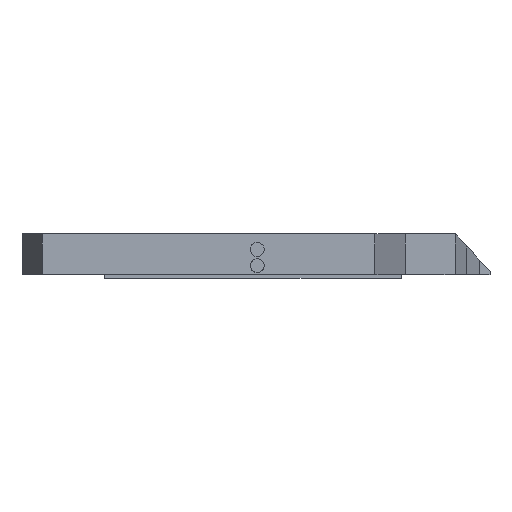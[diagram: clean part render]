
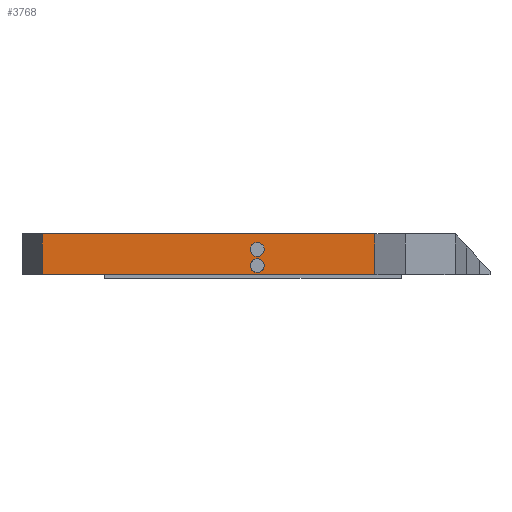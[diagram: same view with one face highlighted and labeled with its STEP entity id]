
A CAD part, left-side view. The second image highlights one B-rep face of the part: STEP entity #3768.
In plain terms, the highlighted planar face has unit normal (-1, 0, 0).
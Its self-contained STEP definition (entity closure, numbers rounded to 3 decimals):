
#683 = PLANE('',#684);
#684 = AXIS2_PLACEMENT_3D('',#685,#686,#687);
#685 = CARTESIAN_POINT('',(0.,121.334,0.3));
#686 = DIRECTION('',(0.,0.,1.));
#687 = DIRECTION('',(1.,0.,-0.));
#857 = CYLINDRICAL_SURFACE('',#858,0.8);
#858 = AXIS2_PLACEMENT_3D('',#859,#860,#861);
#859 = CARTESIAN_POINT('',(-16.8,121.5,1.35));
#860 = DIRECTION('',(1.,0.,0.));
#861 = DIRECTION('',(-0.,0.,1.));
#956 = CYLINDRICAL_SURFACE('',#957,0.8);
#957 = AXIS2_PLACEMENT_3D('',#958,#959,#960);
#958 = CARTESIAN_POINT('',(-16.8,121.5,3.2));
#959 = DIRECTION('',(1.,0.,0.));
#960 = DIRECTION('',(-0.,0.,1.));
#2156 = VERTEX_POINT('',#2157);
#2157 = CARTESIAN_POINT('',(-16.6,146.2,0.3));
#2171 = PLANE('',#2172);
#2172 = AXIS2_PLACEMENT_3D('',#2173,#2174,#2175);
#2173 = CARTESIAN_POINT('',(-11.2,148.5,0.3));
#2174 = DIRECTION('',(0.392,-0.92,0.));
#2175 = DIRECTION('',(-0.92,-0.392,0.));
#2183 = EDGE_CURVE('',#2156,#2184,#2186,.T.);
#2184 = VERTEX_POINT('',#2185);
#2185 = CARTESIAN_POINT('',(-16.6,108.,0.3));
#2186 = SURFACE_CURVE('',#2187,(#2191,#2198),.PCURVE_S1.);
#2187 = LINE('',#2188,#2189);
#2188 = CARTESIAN_POINT('',(-16.6,146.2,0.3));
#2189 = VECTOR('',#2190,1.);
#2190 = DIRECTION('',(0.,-1.,0.));
#2191 = PCURVE('',#683,#2192);
#2192 = DEFINITIONAL_REPRESENTATION('',(#2193),#2197);
#2193 = LINE('',#2194,#2195);
#2194 = CARTESIAN_POINT('',(-16.6,24.866));
#2195 = VECTOR('',#2196,1.);
#2196 = DIRECTION('',(0.,-1.));
#2197 = ( GEOMETRIC_REPRESENTATION_CONTEXT(2) 
PARAMETRIC_REPRESENTATION_CONTEXT() REPRESENTATION_CONTEXT('2D SPACE',''
  ) );
#2198 = PCURVE('',#2199,#2204);
#2199 = PLANE('',#2200);
#2200 = AXIS2_PLACEMENT_3D('',#2201,#2202,#2203);
#2201 = CARTESIAN_POINT('',(-16.6,146.2,0.3));
#2202 = DIRECTION('',(1.,0.,-0.));
#2203 = DIRECTION('',(0.,-1.,0.));
#2204 = DEFINITIONAL_REPRESENTATION('',(#2205),#2209);
#2205 = LINE('',#2206,#2207);
#2206 = CARTESIAN_POINT('',(0.,0.));
#2207 = VECTOR('',#2208,1.);
#2208 = DIRECTION('',(1.,0.));
#2209 = ( GEOMETRIC_REPRESENTATION_CONTEXT(2) 
PARAMETRIC_REPRESENTATION_CONTEXT() REPRESENTATION_CONTEXT('2D SPACE',''
  ) );
#2227 = PLANE('',#2228);
#2228 = AXIS2_PLACEMENT_3D('',#2229,#2230,#2231);
#2229 = CARTESIAN_POINT('',(-16.6,108.,0.3));
#2230 = DIRECTION('',(0.9,-0.437,0.));
#2231 = DIRECTION('',(-0.437,-0.9,0.));
#2754 = VERTEX_POINT('',#2755);
#2755 = CARTESIAN_POINT('',(-16.6,121.5,2.15));
#2776 = EDGE_CURVE('',#2754,#2754,#2777,.T.);
#2777 = SURFACE_CURVE('',#2778,(#2783,#2790),.PCURVE_S1.);
#2778 = CIRCLE('',#2779,0.8);
#2779 = AXIS2_PLACEMENT_3D('',#2780,#2781,#2782);
#2780 = CARTESIAN_POINT('',(-16.6,121.5,1.35));
#2781 = DIRECTION('',(1.,0.,0.));
#2782 = DIRECTION('',(-0.,0.,1.));
#2783 = PCURVE('',#857,#2784);
#2784 = DEFINITIONAL_REPRESENTATION('',(#2785),#2789);
#2785 = LINE('',#2786,#2787);
#2786 = CARTESIAN_POINT('',(0.,0.2));
#2787 = VECTOR('',#2788,1.);
#2788 = DIRECTION('',(1.,0.));
#2789 = ( GEOMETRIC_REPRESENTATION_CONTEXT(2) 
PARAMETRIC_REPRESENTATION_CONTEXT() REPRESENTATION_CONTEXT('2D SPACE',''
  ) );
#2790 = PCURVE('',#2199,#2791);
#2791 = DEFINITIONAL_REPRESENTATION('',(#2792),#2796);
#2792 = CIRCLE('',#2793,0.8);
#2793 = AXIS2_PLACEMENT_2D('',#2794,#2795);
#2794 = CARTESIAN_POINT('',(24.7,-1.05));
#2795 = DIRECTION('',(0.,-1.));
#2796 = ( GEOMETRIC_REPRESENTATION_CONTEXT(2) 
PARAMETRIC_REPRESENTATION_CONTEXT() REPRESENTATION_CONTEXT('2D SPACE',''
  ) );
#2829 = VERTEX_POINT('',#2830);
#2830 = CARTESIAN_POINT('',(-16.6,121.5,4.));
#2851 = EDGE_CURVE('',#2829,#2829,#2852,.T.);
#2852 = SURFACE_CURVE('',#2853,(#2858,#2865),.PCURVE_S1.);
#2853 = CIRCLE('',#2854,0.8);
#2854 = AXIS2_PLACEMENT_3D('',#2855,#2856,#2857);
#2855 = CARTESIAN_POINT('',(-16.6,121.5,3.2));
#2856 = DIRECTION('',(1.,0.,0.));
#2857 = DIRECTION('',(-0.,0.,1.));
#2858 = PCURVE('',#956,#2859);
#2859 = DEFINITIONAL_REPRESENTATION('',(#2860),#2864);
#2860 = LINE('',#2861,#2862);
#2861 = CARTESIAN_POINT('',(0.,0.2));
#2862 = VECTOR('',#2863,1.);
#2863 = DIRECTION('',(1.,0.));
#2864 = ( GEOMETRIC_REPRESENTATION_CONTEXT(2) 
PARAMETRIC_REPRESENTATION_CONTEXT() REPRESENTATION_CONTEXT('2D SPACE',''
  ) );
#2865 = PCURVE('',#2199,#2866);
#2866 = DEFINITIONAL_REPRESENTATION('',(#2867),#2871);
#2867 = CIRCLE('',#2868,0.8);
#2868 = AXIS2_PLACEMENT_2D('',#2869,#2870);
#2869 = CARTESIAN_POINT('',(24.7,-2.9));
#2870 = DIRECTION('',(0.,-1.));
#2871 = ( GEOMETRIC_REPRESENTATION_CONTEXT(2) 
PARAMETRIC_REPRESENTATION_CONTEXT() REPRESENTATION_CONTEXT('2D SPACE',''
  ) );
#3608 = PLANE('',#3609);
#3609 = AXIS2_PLACEMENT_3D('',#3610,#3611,#3612);
#3610 = CARTESIAN_POINT('',(0.,121.334,5.));
#3611 = DIRECTION('',(0.,0.,1.));
#3612 = DIRECTION('',(1.,0.,-0.));
#3674 = EDGE_CURVE('',#2184,#3675,#3677,.T.);
#3675 = VERTEX_POINT('',#3676);
#3676 = CARTESIAN_POINT('',(-16.6,108.,5.));
#3677 = SURFACE_CURVE('',#3678,(#3682,#3689),.PCURVE_S1.);
#3678 = LINE('',#3679,#3680);
#3679 = CARTESIAN_POINT('',(-16.6,108.,0.3));
#3680 = VECTOR('',#3681,1.);
#3681 = DIRECTION('',(0.,0.,1.));
#3682 = PCURVE('',#2227,#3683);
#3683 = DEFINITIONAL_REPRESENTATION('',(#3684),#3688);
#3684 = LINE('',#3685,#3686);
#3685 = CARTESIAN_POINT('',(0.,0.));
#3686 = VECTOR('',#3687,1.);
#3687 = DIRECTION('',(0.,-1.));
#3688 = ( GEOMETRIC_REPRESENTATION_CONTEXT(2) 
PARAMETRIC_REPRESENTATION_CONTEXT() REPRESENTATION_CONTEXT('2D SPACE',''
  ) );
#3689 = PCURVE('',#2199,#3690);
#3690 = DEFINITIONAL_REPRESENTATION('',(#3691),#3695);
#3691 = LINE('',#3692,#3693);
#3692 = CARTESIAN_POINT('',(38.2,0.));
#3693 = VECTOR('',#3694,1.);
#3694 = DIRECTION('',(0.,-1.));
#3695 = ( GEOMETRIC_REPRESENTATION_CONTEXT(2) 
PARAMETRIC_REPRESENTATION_CONTEXT() REPRESENTATION_CONTEXT('2D SPACE',''
  ) );
#3768 = ADVANCED_FACE('',(#3769,#3817,#3820),#2199,.F.);
#3769 = FACE_BOUND('',#3770,.F.);
#3770 = EDGE_LOOP('',(#3771,#3794,#3815,#3816));
#3771 = ORIENTED_EDGE('',*,*,#3772,.T.);
#3772 = EDGE_CURVE('',#2156,#3773,#3775,.T.);
#3773 = VERTEX_POINT('',#3774);
#3774 = CARTESIAN_POINT('',(-16.6,146.2,5.));
#3775 = SURFACE_CURVE('',#3776,(#3780,#3787),.PCURVE_S1.);
#3776 = LINE('',#3777,#3778);
#3777 = CARTESIAN_POINT('',(-16.6,146.2,0.3));
#3778 = VECTOR('',#3779,1.);
#3779 = DIRECTION('',(0.,0.,1.));
#3780 = PCURVE('',#2199,#3781);
#3781 = DEFINITIONAL_REPRESENTATION('',(#3782),#3786);
#3782 = LINE('',#3783,#3784);
#3783 = CARTESIAN_POINT('',(0.,0.));
#3784 = VECTOR('',#3785,1.);
#3785 = DIRECTION('',(0.,-1.));
#3786 = ( GEOMETRIC_REPRESENTATION_CONTEXT(2) 
PARAMETRIC_REPRESENTATION_CONTEXT() REPRESENTATION_CONTEXT('2D SPACE',''
  ) );
#3787 = PCURVE('',#2171,#3788);
#3788 = DEFINITIONAL_REPRESENTATION('',(#3789),#3793);
#3789 = LINE('',#3790,#3791);
#3790 = CARTESIAN_POINT('',(5.869,0.));
#3791 = VECTOR('',#3792,1.);
#3792 = DIRECTION('',(0.,-1.));
#3793 = ( GEOMETRIC_REPRESENTATION_CONTEXT(2) 
PARAMETRIC_REPRESENTATION_CONTEXT() REPRESENTATION_CONTEXT('2D SPACE',''
  ) );
#3794 = ORIENTED_EDGE('',*,*,#3795,.T.);
#3795 = EDGE_CURVE('',#3773,#3675,#3796,.T.);
#3796 = SURFACE_CURVE('',#3797,(#3801,#3808),.PCURVE_S1.);
#3797 = LINE('',#3798,#3799);
#3798 = CARTESIAN_POINT('',(-16.6,146.2,5.));
#3799 = VECTOR('',#3800,1.);
#3800 = DIRECTION('',(0.,-1.,0.));
#3801 = PCURVE('',#2199,#3802);
#3802 = DEFINITIONAL_REPRESENTATION('',(#3803),#3807);
#3803 = LINE('',#3804,#3805);
#3804 = CARTESIAN_POINT('',(0.,-4.7));
#3805 = VECTOR('',#3806,1.);
#3806 = DIRECTION('',(1.,0.));
#3807 = ( GEOMETRIC_REPRESENTATION_CONTEXT(2) 
PARAMETRIC_REPRESENTATION_CONTEXT() REPRESENTATION_CONTEXT('2D SPACE',''
  ) );
#3808 = PCURVE('',#3608,#3809);
#3809 = DEFINITIONAL_REPRESENTATION('',(#3810),#3814);
#3810 = LINE('',#3811,#3812);
#3811 = CARTESIAN_POINT('',(-16.6,24.866));
#3812 = VECTOR('',#3813,1.);
#3813 = DIRECTION('',(0.,-1.));
#3814 = ( GEOMETRIC_REPRESENTATION_CONTEXT(2) 
PARAMETRIC_REPRESENTATION_CONTEXT() REPRESENTATION_CONTEXT('2D SPACE',''
  ) );
#3815 = ORIENTED_EDGE('',*,*,#3674,.F.);
#3816 = ORIENTED_EDGE('',*,*,#2183,.F.);
#3817 = FACE_BOUND('',#3818,.F.);
#3818 = EDGE_LOOP('',(#3819));
#3819 = ORIENTED_EDGE('',*,*,#2851,.F.);
#3820 = FACE_BOUND('',#3821,.F.);
#3821 = EDGE_LOOP('',(#3822));
#3822 = ORIENTED_EDGE('',*,*,#2776,.F.);
